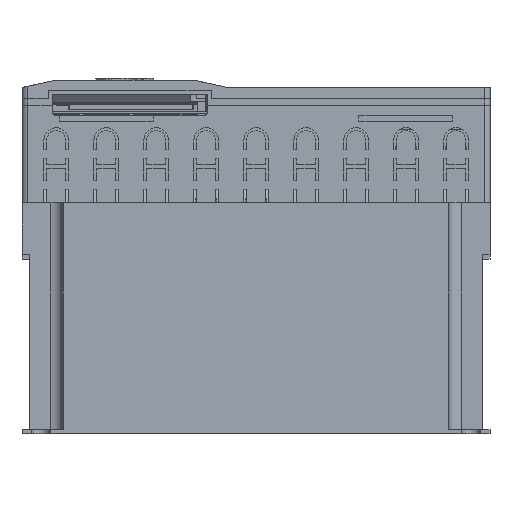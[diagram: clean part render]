
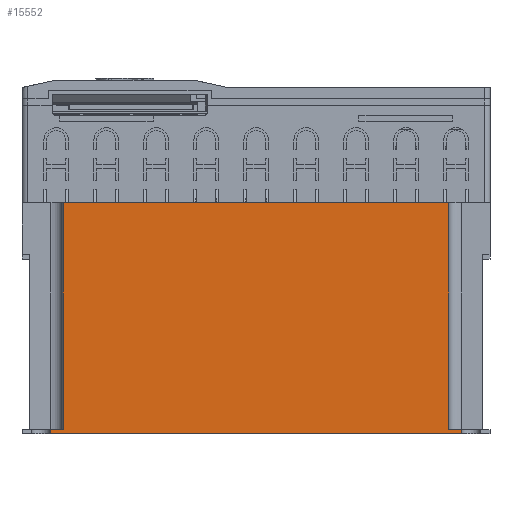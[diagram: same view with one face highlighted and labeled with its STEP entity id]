
A CAD part, front view. The second image highlights one B-rep face of the part: STEP entity #15552.
In plain terms, the highlighted planar face has unit normal (0, -1, 0).
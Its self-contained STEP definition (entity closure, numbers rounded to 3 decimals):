
#3966=DIRECTION('',(1.,0.,0.));
#3967=VECTOR('',#3966,220.);
#3968=CARTESIAN_POINT('',(-110.,-200.,0.));
#3969=LINE('',#3968,#3967);
#4203=DIRECTION('',(0.,0.,1.));
#4204=VECTOR('',#4203,121.2);
#4205=CARTESIAN_POINT('',(103.,-200.,2.3));
#4206=LINE('',#4205,#4204);
#4231=DIRECTION('',(1.,0.,0.));
#4232=VECTOR('',#4231,206.);
#4233=CARTESIAN_POINT('',(-103.,-200.,123.5));
#4234=LINE('',#4233,#4232);
#4235=DIRECTION('',(1.,0.,0.));
#4236=VECTOR('',#4235,7.);
#4237=CARTESIAN_POINT('',(103.,-200.,2.3));
#4238=LINE('',#4237,#4236);
#4239=DIRECTION('',(0.,0.,1.));
#4240=VECTOR('',#4239,2.3);
#4241=CARTESIAN_POINT('',(110.,-200.,0.));
#4242=LINE('',#4241,#4240);
#4243=DIRECTION('',(0.,0.,1.));
#4244=VECTOR('',#4243,2.3);
#4245=CARTESIAN_POINT('',(-110.,-200.,0.));
#4246=LINE('',#4245,#4244);
#4247=DIRECTION('',(1.,0.,0.));
#4248=VECTOR('',#4247,7.);
#4249=CARTESIAN_POINT('',(-110.,-200.,2.3));
#4250=LINE('',#4249,#4248);
#4772=DIRECTION('',(0.,0.,-1.));
#4773=VECTOR('',#4772,121.2);
#4774=CARTESIAN_POINT('',(-103.,-200.,123.5));
#4775=LINE('',#4774,#4773);
#7627=CARTESIAN_POINT('',(-110.,-200.,0.));
#7629=VERTEX_POINT('',#7627);
#7631=CARTESIAN_POINT('',(110.,-200.,0.));
#7633=VERTEX_POINT('',#7631);
#7641=CARTESIAN_POINT('',(-110.,-200.,2.3));
#7642=VERTEX_POINT('',#7641);
#7643=CARTESIAN_POINT('',(110.,-200.,2.3));
#7644=VERTEX_POINT('',#7643);
#7663=CARTESIAN_POINT('',(-103.,-200.,2.3));
#7664=VERTEX_POINT('',#7663);
#7665=CARTESIAN_POINT('',(103.,-200.,2.3));
#7666=VERTEX_POINT('',#7665);
#7883=CARTESIAN_POINT('',(-103.,-200.,123.5));
#7884=CARTESIAN_POINT('',(103.,-200.,123.5));
#7885=VERTEX_POINT('',#7883);
#7886=VERTEX_POINT('',#7884);
#15533=CARTESIAN_POINT('',(-125.,-200.,0.));
#15534=DIRECTION('',(0.,-1.,0.));
#15535=DIRECTION('',(1.,0.,0.));
#15536=AXIS2_PLACEMENT_3D('',#15533,#15534,#15535);
#15537=PLANE('',#15536);
#15539=ORIENTED_EDGE('',*,*,#15538,.F.);
#15541=ORIENTED_EDGE('',*,*,#15540,.T.);
#15542=ORIENTED_EDGE('',*,*,#15497,.F.);
#15543=ORIENTED_EDGE('',*,*,#15308,.T.);
#15545=ORIENTED_EDGE('',*,*,#15544,.F.);
#15546=ORIENTED_EDGE('',*,*,#15209,.F.);
#15548=ORIENTED_EDGE('',*,*,#15547,.T.);
#15549=ORIENTED_EDGE('',*,*,#15320,.T.);
#15550=EDGE_LOOP('',(#15539,#15541,#15542,#15543,#15545,#15546,#15548,#15549));
#15551=FACE_OUTER_BOUND('',#15550,.F.);
#15552=ADVANCED_FACE('',(#15551),#15537,.T.);
#15209=EDGE_CURVE('',#7629,#7633,#3969,.T.);
#15308=EDGE_CURVE('',#7666,#7644,#4238,.T.);
#15320=EDGE_CURVE('',#7642,#7664,#4250,.T.);
#15497=EDGE_CURVE('',#7666,#7886,#4206,.T.);
#15538=EDGE_CURVE('',#7885,#7664,#4775,.T.);
#15540=EDGE_CURVE('',#7885,#7886,#4234,.T.);
#15544=EDGE_CURVE('',#7633,#7644,#4242,.T.);
#15547=EDGE_CURVE('',#7629,#7642,#4246,.T.);
